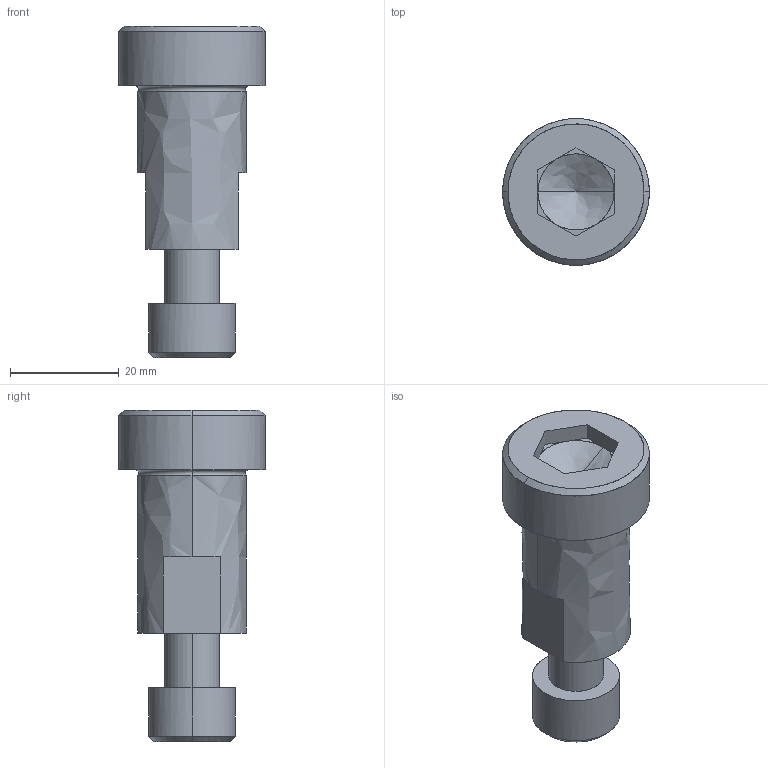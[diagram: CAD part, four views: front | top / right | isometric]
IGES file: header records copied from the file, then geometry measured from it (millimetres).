
Global section: file name: E:\UnigraphicsGraphicData\MISUMI_PRESS-PARTS\IGES\3d_sbt20-30_05065_r00.igs; native system: NX V5.0; preprocessor: UGS NX IGES V5.0; author: MISUMI; date: 20110105.162439; units: millimetre
Bounding box: 27 x 27 x 61 mm (x, y, z)
Surface area: 6693.4 mm2 (no closed solid volume)
Topology: 0 solids, 0 shells, 56 faces, 318 edges, 314 vertices
Faces by surface type: bspline 56
